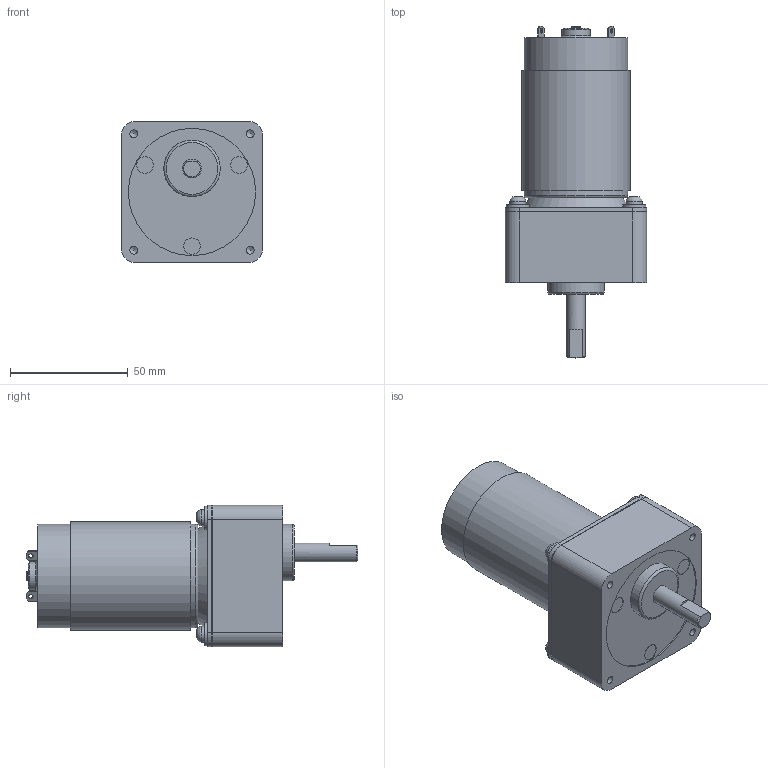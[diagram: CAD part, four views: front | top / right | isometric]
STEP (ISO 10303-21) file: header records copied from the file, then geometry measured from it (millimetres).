
FILE_DESCRIPTION(/* description */ (''),/* implementation_level */ '2;1');
FILE_NAME(/* name */ 'TP-4668-CM-2.stp',/* time_stamp */ '2024-05-31T17:20:01+09:00',/* author */ ('user'),/* organization */ (''),/* preprocessor_version */ 'ST-DEVELOPER v20',/* originating_system */ 'Autodesk Inventor 2024',/* authorisation */ '');
FILE_SCHEMA (('AUTOMOTIVE_DESIGN { 1 0 10303 214 3 1 1 }'));
Length unit declared in the file: millimetre
Products named in the file (3): TP-4668-CM-5~12.5; cm_2; tp_4668
Assembly tree (2 placements, depth 2):
  TP-4668-CM-5~12.5
    cm_2
    tp_4668
Bounding box: 60 x 141 x 60 mm (x, y, z)
Volume: 232313.1 mm3; surface area: 30657.7 mm2
Topology: 2 solids, 2 shells, 137 faces, 306 edges, 201 vertices
Faces by surface type: plane 61, cylinder 56, cone 12, bspline 4, torus 4
Full cylindrical faces by diameter (mm): 2 x2, 2.459 x3, 3.242 x4, 4 x2, 6.8 x4, 7 x3, 8 x1, 9.8 x4, 12 x2, 24 x1, 42 x1, 44 x1, 54 x1
Entity records: 4035 total; most frequent: CARTESIAN_POINT 750, DIRECTION 720, ORIENTED_EDGE 598, EDGE_CURVE 299, AXIS2_PLACEMENT_3D 285, VERTEX_POINT 201, EDGE_LOOP 176, LINE 150
